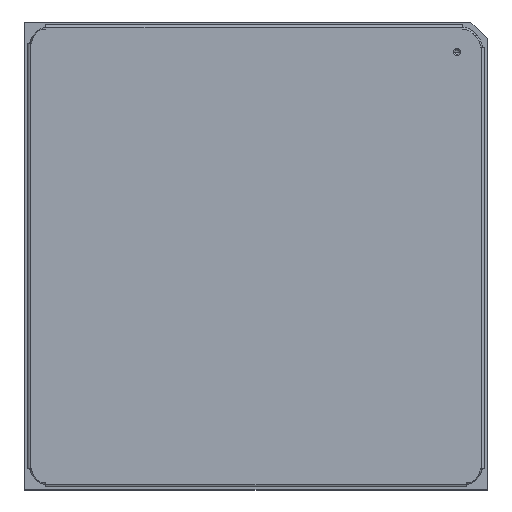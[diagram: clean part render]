
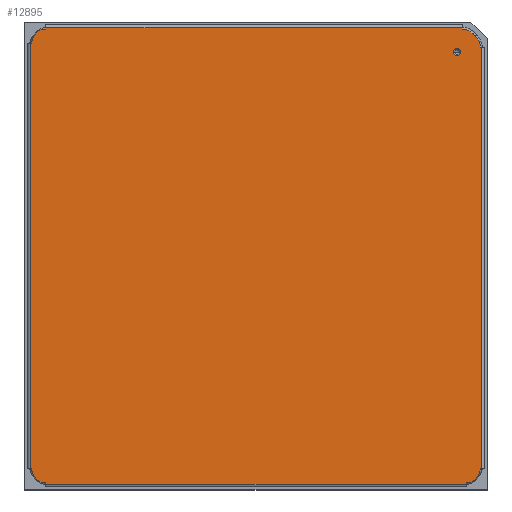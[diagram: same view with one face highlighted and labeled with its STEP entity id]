
A CAD part, top view. The second image highlights one B-rep face of the part: STEP entity #12895.
In plain terms, the highlighted planar face has unit normal (0, 0, 1).
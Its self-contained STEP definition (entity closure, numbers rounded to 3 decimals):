
#9678=DIRECTION('',(1.,0.,0.));
#9679=VECTOR('',#9678,38.6);
#9680=CARTESIAN_POINT('',(10.23,1.845,2.5));
#9681=LINE('',#9680,#9679);
#9696=DIRECTION('',(0.,1.,0.));
#9697=VECTOR('',#9696,0.125);
#9698=CARTESIAN_POINT('',(48.83,1.845,2.5));
#9699=LINE('',#9698,#9697);
#9700=DIRECTION('',(0.,1.,0.));
#9701=VECTOR('',#9700,0.125);
#9702=CARTESIAN_POINT('',(10.23,1.845,2.5));
#9703=LINE('',#9702,#9701);
#9704=CARTESIAN_POINT('',(10.23,3.27,2.5));
#9705=DIRECTION('',(0.,0.,-1.));
#9706=DIRECTION('',(0.,-1.,0.));
#9707=AXIS2_PLACEMENT_3D('',#9704,#9705,#9706);
#9709=DIRECTION('',(-1.,0.,0.));
#9710=VECTOR('',#9709,0.125);
#9711=CARTESIAN_POINT('',(8.93,3.27,2.5));
#9712=LINE('',#9711,#9710);
#9713=DIRECTION('',(1.,0.,0.));
#9714=VECTOR('',#9713,0.125);
#9715=CARTESIAN_POINT('',(8.805,42.37,2.5));
#9716=LINE('',#9715,#9714);
#9717=CARTESIAN_POINT('',(10.23,42.37,2.5));
#9718=DIRECTION('',(0.,0.,-1.));
#9719=DIRECTION('',(-1.,0.,0.));
#9720=AXIS2_PLACEMENT_3D('',#9717,#9718,#9719);
#9722=DIRECTION('',(0.,-1.,0.));
#9723=VECTOR('',#9722,0.125);
#9724=CARTESIAN_POINT('',(48.472,43.795,2.5));
#9725=LINE('',#9724,#9723);
#9726=CARTESIAN_POINT('',(48.472,42.37,2.5));
#9727=DIRECTION('',(0.,0.,-1.));
#9728=DIRECTION('',(0.,1.,0.));
#9729=AXIS2_PLACEMENT_3D('',#9726,#9727,#9728);
#9731=DIRECTION('',(0.707,-0.707,0.));
#9732=VECTOR('',#9731,0.506);
#9733=CARTESIAN_POINT('',(49.392,43.289,2.5));
#9734=LINE('',#9733,#9732);
#9735=CARTESIAN_POINT('',(48.83,42.012,2.5));
#9736=DIRECTION('',(0.,0.,-1.));
#9737=DIRECTION('',(0.707,0.707,0.));
#9738=AXIS2_PLACEMENT_3D('',#9735,#9736,#9737);
#9740=DIRECTION('',(-1.,0.,0.));
#9741=VECTOR('',#9740,0.125);
#9742=CARTESIAN_POINT('',(50.255,3.27,2.5));
#9743=LINE('',#9742,#9741);
#9744=CARTESIAN_POINT('',(48.83,3.27,2.5));
#9745=DIRECTION('',(0.,0.,-1.));
#9746=DIRECTION('',(1.,0.,0.));
#9747=AXIS2_PLACEMENT_3D('',#9744,#9745,#9746);
#9749=CARTESIAN_POINT('',(48.005,41.545,2.5));
#9750=DIRECTION('',(0.,0.,1.));
#9751=DIRECTION('',(1.,0.,0.));
#9752=AXIS2_PLACEMENT_3D('',#9749,#9750,#9751);
#9754=CARTESIAN_POINT('',(48.005,41.545,2.5));
#9755=DIRECTION('',(0.,0.,1.));
#9756=DIRECTION('',(-1.,0.,0.));
#9757=AXIS2_PLACEMENT_3D('',#9754,#9755,#9756);
#10049=DIRECTION('',(0.,1.,0.));
#10050=VECTOR('',#10049,38.742);
#10051=CARTESIAN_POINT('',(50.255,3.27,2.5));
#10052=LINE('',#10051,#10050);
#10067=DIRECTION('',(-1.,0.,0.));
#10068=VECTOR('',#10067,0.125);
#10069=CARTESIAN_POINT('',(50.255,42.012,2.5));
#10070=LINE('',#10069,#10068);
#10113=DIRECTION('',(-1.,0.,0.));
#10114=VECTOR('',#10113,38.242);
#10115=CARTESIAN_POINT('',(48.472,43.795,2.5));
#10116=LINE('',#10115,#10114);
#10131=DIRECTION('',(0.,-1.,0.));
#10132=VECTOR('',#10131,0.125);
#10133=CARTESIAN_POINT('',(10.23,43.795,2.5));
#10134=LINE('',#10133,#10132);
#10169=DIRECTION('',(0.,-1.,0.));
#10170=VECTOR('',#10169,39.1);
#10171=CARTESIAN_POINT('',(8.805,42.37,2.5));
#10172=LINE('',#10171,#10170);
#12055=CARTESIAN_POINT('',(48.83,1.845,2.5));
#12056=VERTEX_POINT('',#12055);
#12057=CARTESIAN_POINT('',(10.23,1.845,2.5));
#12058=VERTEX_POINT('',#12057);
#12063=CARTESIAN_POINT('',(48.83,1.97,2.5));
#12064=VERTEX_POINT('',#12063);
#12067=CARTESIAN_POINT('',(10.23,1.97,2.5));
#12068=VERTEX_POINT('',#12067);
#12069=CARTESIAN_POINT('',(8.93,3.27,2.5));
#12070=VERTEX_POINT('',#12069);
#12071=CARTESIAN_POINT('',(8.805,3.27,2.5));
#12072=VERTEX_POINT('',#12071);
#12073=CARTESIAN_POINT('',(8.805,42.37,2.5));
#12074=VERTEX_POINT('',#12073);
#12075=CARTESIAN_POINT('',(8.93,42.37,2.5));
#12076=VERTEX_POINT('',#12075);
#12077=CARTESIAN_POINT('',(10.23,43.67,2.5));
#12078=VERTEX_POINT('',#12077);
#12079=CARTESIAN_POINT('',(10.23,43.795,2.5));
#12080=VERTEX_POINT('',#12079);
#12081=CARTESIAN_POINT('',(48.472,43.795,2.5));
#12082=VERTEX_POINT('',#12081);
#12083=CARTESIAN_POINT('',(48.472,43.67,2.5));
#12084=VERTEX_POINT('',#12083);
#12085=CARTESIAN_POINT('',(49.392,43.289,2.5));
#12086=VERTEX_POINT('',#12085);
#12087=CARTESIAN_POINT('',(49.749,42.931,2.5));
#12088=VERTEX_POINT('',#12087);
#12089=CARTESIAN_POINT('',(50.13,42.012,2.5));
#12090=VERTEX_POINT('',#12089);
#12091=CARTESIAN_POINT('',(50.255,42.012,2.5));
#12092=VERTEX_POINT('',#12091);
#12093=CARTESIAN_POINT('',(50.255,3.27,2.5));
#12094=VERTEX_POINT('',#12093);
#12095=CARTESIAN_POINT('',(50.13,3.27,2.5));
#12096=VERTEX_POINT('',#12095);
#12097=CARTESIAN_POINT('',(48.341,41.545,2.5));
#12098=CARTESIAN_POINT('',(47.67,41.545,2.5));
#12099=VERTEX_POINT('',#12097);
#12100=VERTEX_POINT('',#12098);
#12848=CARTESIAN_POINT('',(0.,0.,2.5));
#12849=DIRECTION('',(0.,0.,1.));
#12850=DIRECTION('',(0.,1.,0.));
#12851=AXIS2_PLACEMENT_3D('',#12848,#12849,#12850);
#12852=PLANE('',#12851);
#12853=ORIENTED_EDGE('',*,*,#12813,.F.);
#12855=ORIENTED_EDGE('',*,*,#12854,.T.);
#12857=ORIENTED_EDGE('',*,*,#12856,.T.);
#12859=ORIENTED_EDGE('',*,*,#12858,.T.);
#12861=ORIENTED_EDGE('',*,*,#12860,.F.);
#12863=ORIENTED_EDGE('',*,*,#12862,.T.);
#12865=ORIENTED_EDGE('',*,*,#12864,.T.);
#12867=ORIENTED_EDGE('',*,*,#12866,.F.);
#12869=ORIENTED_EDGE('',*,*,#12868,.F.);
#12871=ORIENTED_EDGE('',*,*,#12870,.T.);
#12873=ORIENTED_EDGE('',*,*,#12872,.T.);
#12875=ORIENTED_EDGE('',*,*,#12874,.T.);
#12877=ORIENTED_EDGE('',*,*,#12876,.T.);
#12879=ORIENTED_EDGE('',*,*,#12878,.F.);
#12881=ORIENTED_EDGE('',*,*,#12880,.F.);
#12883=ORIENTED_EDGE('',*,*,#12882,.T.);
#12885=ORIENTED_EDGE('',*,*,#12884,.T.);
#12886=ORIENTED_EDGE('',*,*,#12838,.F.);
#12887=EDGE_LOOP('',(#12853,#12855,#12857,#12859,#12861,#12863,#12865,#12867,
#12869,#12871,#12873,#12875,#12877,#12879,#12881,#12883,#12885,#12886));
#12888=FACE_OUTER_BOUND('',#12887,.F.);
#12890=ORIENTED_EDGE('',*,*,#12889,.T.);
#12892=ORIENTED_EDGE('',*,*,#12891,.T.);
#12893=EDGE_LOOP('',(#12890,#12892));
#12894=FACE_BOUND('',#12893,.F.);
#12895=ADVANCED_FACE('',(#12888,#12894),#12852,.T.);
#9708=CIRCLE('',#9707,1.3);
#9721=CIRCLE('',#9720,1.3);
#9730=CIRCLE('',#9729,1.3);
#9739=CIRCLE('',#9738,1.3);
#9748=CIRCLE('',#9747,1.3);
#9753=CIRCLE('',#9752,0.335);
#9758=CIRCLE('',#9757,0.335);
#12813=EDGE_CURVE('',#12058,#12056,#9681,.T.);
#12838=EDGE_CURVE('',#12056,#12064,#9699,.T.);
#12854=EDGE_CURVE('',#12058,#12068,#9703,.T.);
#12856=EDGE_CURVE('',#12068,#12070,#9708,.T.);
#12858=EDGE_CURVE('',#12070,#12072,#9712,.T.);
#12860=EDGE_CURVE('',#12074,#12072,#10172,.T.);
#12862=EDGE_CURVE('',#12074,#12076,#9716,.T.);
#12864=EDGE_CURVE('',#12076,#12078,#9721,.T.);
#12866=EDGE_CURVE('',#12080,#12078,#10134,.T.);
#12868=EDGE_CURVE('',#12082,#12080,#10116,.T.);
#12870=EDGE_CURVE('',#12082,#12084,#9725,.T.);
#12872=EDGE_CURVE('',#12084,#12086,#9730,.T.);
#12874=EDGE_CURVE('',#12086,#12088,#9734,.T.);
#12876=EDGE_CURVE('',#12088,#12090,#9739,.T.);
#12878=EDGE_CURVE('',#12092,#12090,#10070,.T.);
#12880=EDGE_CURVE('',#12094,#12092,#10052,.T.);
#12882=EDGE_CURVE('',#12094,#12096,#9743,.T.);
#12884=EDGE_CURVE('',#12096,#12064,#9748,.T.);
#12889=EDGE_CURVE('',#12099,#12100,#9753,.T.);
#12891=EDGE_CURVE('',#12100,#12099,#9758,.T.);
